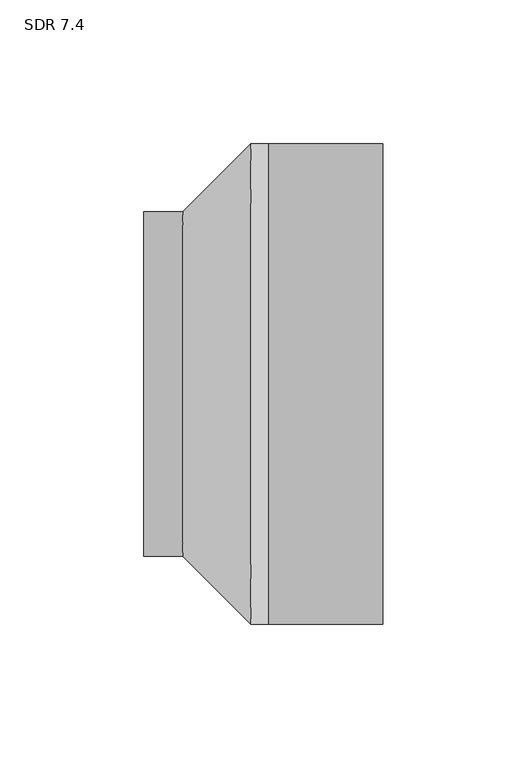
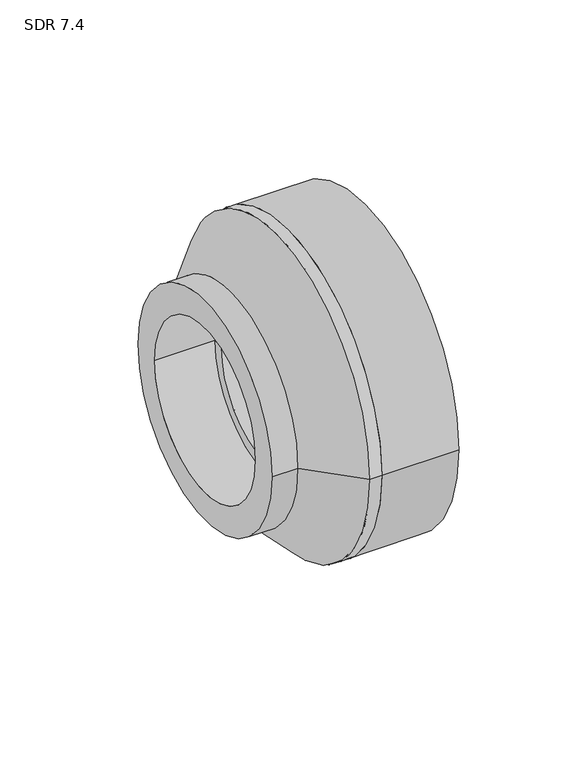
"""IFC4 building model written with IfcOpenShell, lengths in millimetres: pipe fitting geometry, Aquatherm - Reducing Coupling Combined - METRIC : SDR 7.4."""

from ifc_helpers import new_model, si_unit, point, frame, origin, origin_2d, place, context, project, spatial, polyline, circle_curve, trimmed, segment, composite_curve, outline, extrude, source, transform, mapped, element, save
from ifc_brep_helpers import plane_surface, cylinder_surface, revolved_surface, advanced_brep


def sdr_7_4_a34b8d64(model_context):
    return source(origin(), model_context, "Body", "SolidModel", [
        advanced_brep(
        [(-6.096, 38.86, 0.0), (-6.096, -38.86, 0.0), (6.096, -38.86, 0.0), (6.096, 38.86, 0.0), (6.096, -83.439, 0.0), (6.096, 83.439, 0.0), (0.0, -83.439, 0.0), (0.0, 83.439, 0.0), (-23.495, -59.944, 0.0), (-23.495, 59.944, 0.0), (-37.084, 59.944, 0.0), (-37.084, -59.944, 0.0), (-37.084, 44.958, 0.0), (-37.084, -44.958, 0.0), (-6.096, -44.958, 0.0), (-6.096, 44.958, 0.0)],
        [
            (0, 1, circle_curve(frame((-6.096, 0.0, 0.0), z_axis=(-1.0, 0.0, 0.0), x_axis=(0.0, -1.0, 0.0)), 38.86)),
            (1, 2),
            (2, 3, circle_curve(frame((6.096, 0.0, 0.0), z_axis=(1.0, 0.0, 0.0), x_axis=(0.0, -1.0, 0.0)), 38.86)),
            (3, 0),
            (1, 0, circle_curve(frame((-6.096, 0.0, 0.0), z_axis=(-1.0, 0.0, 0.0), x_axis=(0.0, -1.0, 0.0)), 38.86)),
            (3, 2, circle_curve(frame((6.096, 0.0, 0.0), z_axis=(1.0, 0.0, 0.0), x_axis=(0.0, -1.0, 0.0)), 38.86)),
            (2, 4),
            (4, 5, circle_curve(frame((6.096, 0.0, 0.0), z_axis=(1.0, 0.0, 0.0), x_axis=(0.0, -1.0, 0.0)), 83.439)),
            (5, 3),
            (5, 4, circle_curve(frame((6.096, 0.0, 0.0), z_axis=(1.0, 0.0, 0.0), x_axis=(0.0, -1.0, 0.0)), 83.439)),
            (4, 6),
            (6, 7, circle_curve(frame((0.0, 0.0, 0.0), z_axis=(1.0, 0.0, 0.0), x_axis=(0.0, -1.0, 0.0)), 83.439)),
            (7, 5),
            (7, 6, circle_curve(frame((0.0, 0.0, 0.0), z_axis=(1.0, 0.0, 0.0), x_axis=(0.0, -1.0, 0.0)), 83.439)),
            (6, 8),
            (8, 9, circle_curve(frame((-23.495, 0.0, 0.0), z_axis=(1.0, 0.0, 0.0), x_axis=(0.0, -1.0, 0.0)), 59.944)),
            (9, 7),
            (9, 8, circle_curve(frame((-23.495, 0.0, 0.0), z_axis=(1.0, 0.0, 0.0), x_axis=(0.0, -1.0, 0.0)), 59.944)),
            (10, 11, circle_curve(frame((-37.084, 0.0, 0.0), z_axis=(-1.0, 0.0, 0.0), x_axis=(0.0, -1.0, 0.0)), 59.944)),
            (11, 10, circle_curve(frame((-37.084, 0.0, 0.0), z_axis=(-1.0, 0.0, 0.0), x_axis=(0.0, -1.0, 0.0)), 59.944)),
            (12, 13, circle_curve(frame((-37.084, 0.0, 0.0), z_axis=(1.0, 0.0, 0.0), x_axis=(0.0, -1.0, 0.0)), 44.958)),
            (13, 12, circle_curve(frame((-37.084, 0.0, 0.0), z_axis=(1.0, 0.0, 0.0), x_axis=(0.0, -1.0, 0.0)), 44.958)),
            (13, 14),
            (14, 15, circle_curve(frame((-6.096, 0.0, 0.0), z_axis=(1.0, 0.0, 0.0), x_axis=(0.0, -1.0, 0.0)), 44.958)),
            (15, 12),
            (15, 14, circle_curve(frame((-6.096, 0.0, 0.0), z_axis=(1.0, 0.0, 0.0), x_axis=(0.0, -1.0, 0.0)), 44.958)),
            (10, 9),
            (8, 11),
            (0, 15),
            (14, 1),
        ],
        [
            revolved_surface(polyline([(6.096000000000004, -38.86, 0.0), (-6.096000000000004, -38.86, 0.0)]), (76.2, 0.0, 0.0), (1.0, 0.0, 0.0)),
            plane_surface(frame((6.096, 0.0, 0.0), z_axis=(1.0, 0.0, 0.0), x_axis=(0.0, -1.0, 0.0))),
            cylinder_surface(frame((76.2, 0.0, 0.0), z_axis=(1.0, 0.0, 0.0), x_axis=(0.0, -1.0, 0.0)), 83.439),
            revolved_surface(polyline([(-23.495, -59.944, 0.0), (0.0, -83.439, 0.0)]), (76.2, 0.0, 0.0), (1.0, 0.0, 0.0)),
            plane_surface(frame((-37.084, -44.958, 0.0), z_axis=(-1.0, 0.0, 0.0), x_axis=(0.0, 0.0, -1.0))),
            revolved_surface(polyline([(-6.096, -44.958, 0.0), (-37.084, -44.958, 0.0)]), (-6.096, 0.0, 0.0), (1.0, 0.0, 0.0)),
            cylinder_surface(frame((0.0, 0.0, 0.0), z_axis=(-1.0, 0.0, 0.0), x_axis=(0.0, -1.0, 0.0)), 59.944),
            plane_surface(frame((-6.096, 0.0, 0.0), z_axis=(-1.0, 0.0, 0.0), x_axis=(0.0, -1.0, 0.0))),
        ],
        [
            (0, [[1, 2, 3, 4]]),
            (0, [[-2, 5, -4, 6]]),
            (1, [[-3, 7, 8, 9]]),
            (1, [[-6, -9, 10, -7]]),
            (2, [[-8, 11, 12, 13]]),
            (2, [[-10, -13, 14, -11]]),
            (3, [[-12, 15, 16, 17]]),
            (3, [[-14, -17, 18, -15]]),
            (4, [[19, 20], [21, 22]]),
            (5, [[-22, 23, 24, 25]]),
            (5, [[-21, -25, 26, -23]]),
            (6, [[-19, 27, -16, 28]]),
            (6, [[-20, -28, -18, -27]]),
            (7, [[-1, 29, -24, 30]]),
            (7, [[-5, -30, -26, -29]]),
        ],
    ),
        extrude(outline(composite_curve([segment(trimmed(circle_curve(origin_2d(), 83.439), [point((83.439, 0.0))], [point((-83.439, 0.0))], False, "CARTESIAN"), True, "CONTINUOUS"), segment(trimmed(circle_curve(origin_2d(), 83.439), [point((-83.439, 0.0))], [point((83.439, 0.0))], False, "CARTESIAN"), True, "CONTINUOUS")], self_intersect=False), holes=[composite_curve([segment(trimmed(circle_curve(origin_2d(), 62.484), [point((62.484, 0.0))], [point((-62.484, 0.0))], True, "CARTESIAN"), True, "CONTINUOUS"), segment(trimmed(circle_curve(origin_2d(), 62.484), [point((-62.484, 0.0))], [point((62.484, 0.0))], True, "CARTESIAN"), True, "CONTINUOUS")], self_intersect=False)]), frame((6.096, 0.0, 0.0), z_axis=(1.0, 0.0, 0.0), x_axis=(0.0, 1.0, 0.0)), (0.0, 0.0, 1.0), 39.878),
    ])


if __name__ == "__main__":
    model = new_model("IFC4")
    model_context = context("Model", 3, world=origin())
    ifc_project = project(units=[si_unit("LENGTHUNIT", "METRE", prefix="MILLI")], contexts=[model_context])
    site = spatial("IfcSite", under=ifc_project)
    building = spatial("IfcBuilding", under=site)
    placement = place(None, origin())
    sdr_7_4_shape = sdr_7_4_a34b8d64(model_context)
    element("IfcPipeFitting", 1, ObjectType="Aquatherm - Reducing Coupling Combined - METRIC : SDR 7.4", at=placement, inside=building, context=model_context, shape_type="MappedRepresentation", body=[
        mapped(sdr_7_4_shape, transform((0.0, 0.0, 0.0), x_axis=(1.0, 0.0, 0.0), y_axis=(0.0, 1.0, 0.0), z_axis=(0.0, 0.0, 1.0))),
    ])
    save(model, "model.ifc")
